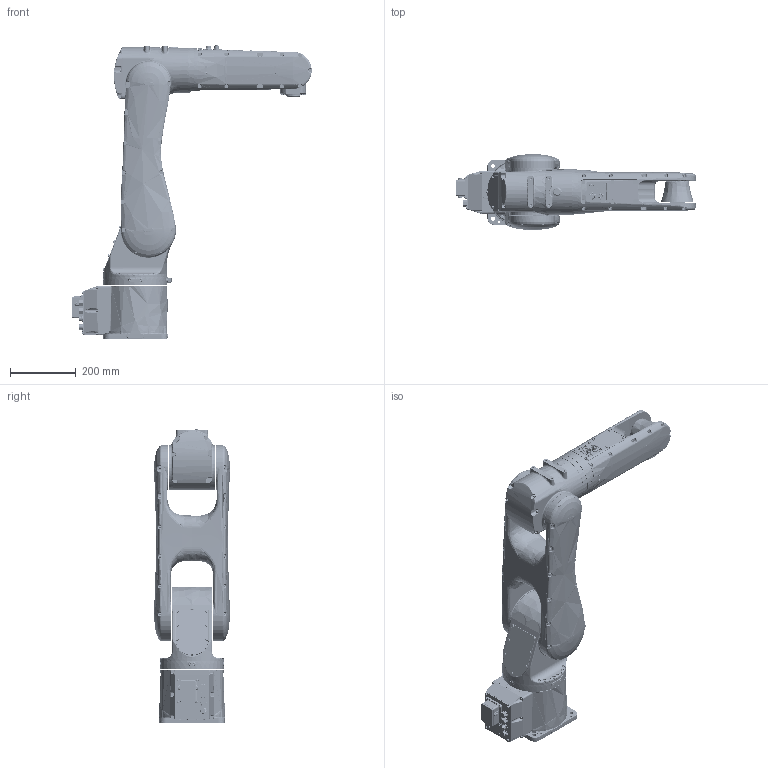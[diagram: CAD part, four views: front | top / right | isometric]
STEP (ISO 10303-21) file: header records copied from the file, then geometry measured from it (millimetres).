
FILE_DESCRIPTION((''),'2;1');
FILE_NAME('ASSY_VIEW_YR-N1-06VX7-C00_ASM','2025-03-21T14:51:55',('mttm21'),('YASKAWA ELECTRIC CORCORATION'),'CREO PARAMETRIC BY PTC INC, 2021072','CREO PARAMETRIC BY PTC INC, 2021072','');
FILE_SCHEMA(('CONFIG_CONTROL_DESIGN','SHAPE_APPEARANCE_LAYERS_GROUPS'));
Products named in the file (8): BASE_VIEW_YR-N1-06VX7-C00; S_VIEW_YR-N1-06VX7-C00; L_VIEW_YR-N1-06VX7-C00; U_VIEW_YR-N1-06VX7-C00; R_VEIW_YR-N1-06VX7-C00; B_VIEW_YR-N1-06VX7-C00; T_VIEW_YR-N1-06VX7-C00; ASSY_VIEW_YR-N1-06VX7-C00_ASM
Assembly tree (7 placements, depth 2):
  ASSY_VIEW_YR-N1-06VX7-C00_ASM
    BASE_VIEW_YR-N1-06VX7-C00
    S_VIEW_YR-N1-06VX7-C00
    L_VIEW_YR-N1-06VX7-C00
    U_VIEW_YR-N1-06VX7-C00
    R_VEIW_YR-N1-06VX7-C00
    B_VIEW_YR-N1-06VX7-C00
    T_VIEW_YR-N1-06VX7-C00
Bounding box: 727.65 x 230.79 x 891.1 mm (x, y, z)
Volume: 28437040.8 mm3; surface area: 1524692.7 mm2
Topology: 7 solids, 8 shells, 5443 faces, 13331 edges, 8202 vertices
Faces by surface type: plane 1698, cylinder 1685, bspline 1239, torus 381, cone 350, sphere 62, extrusion 24, revolution 4
Entity records: 294925 total; most frequent: CARTESIAN_POINT 138867, ORIENTED_EDGE 26558, DIRECTION 22892, EDGE_CURVE 13281, AXIS2_PLACEMENT_3D 8923, VERTEX_POINT 8202, EDGE_LOOP 5923, FILL_AREA_STYLE_COLOUR 5447
